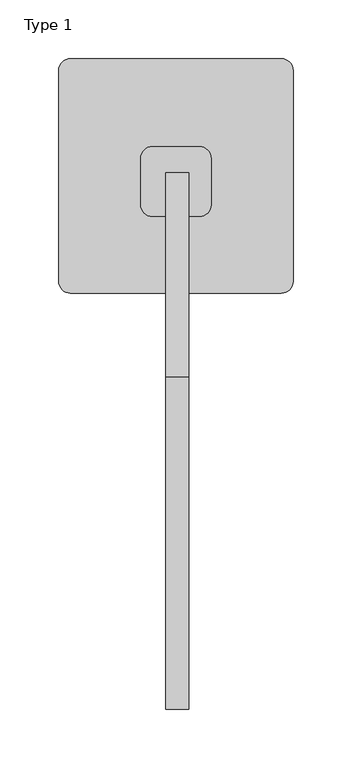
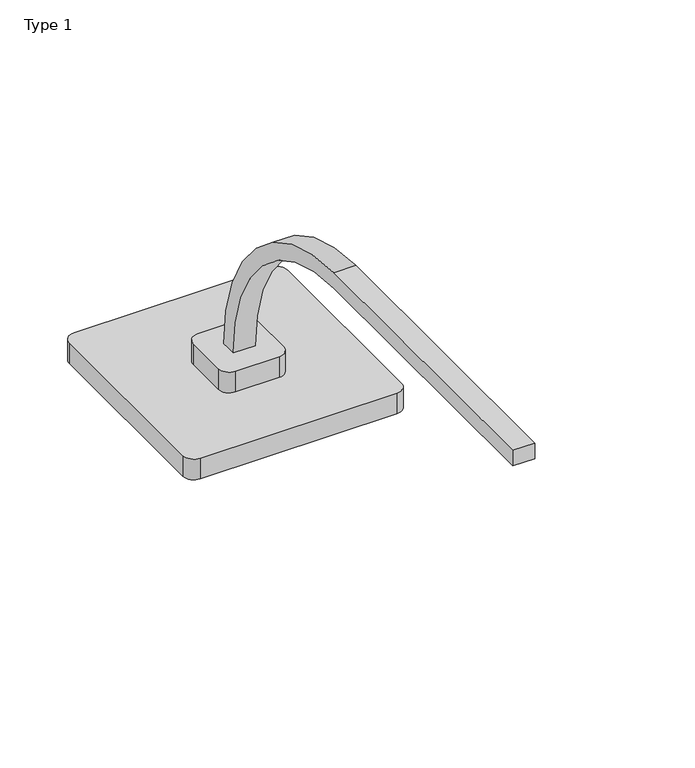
"""IFC4 building model written with IfcOpenShell, lengths in millimetres: flow terminal geometry, Chuveiro Quadrado 20mm : Type 1."""

from ifc_helpers import new_model, si_unit, point, frame, frame_2d, origin, place, context, project, spatial, polyline, circle_curve, trimmed, segment, composite_curve, outline, extrude, source, transform, mapped, element, save


def type_1_46168cfa(model_context):
    return source(origin(), model_context, "Body", "SweptSolid", [
        extrude(outline(composite_curve([segment(trimmed(circle_curve(frame_2d((208.4846115, 2040.0)), 174.5032286), [point((208.4846115, 2214.5032286))], [point((382.9878401, 2040.0))], False, "CARTESIAN"), True, "CONTINUOUS"), segment(polyline([(382.9878401, 2040.0), (367.9878401, 2040.0)]), True, "CONTINUOUS"), segment(trimmed(circle_curve(frame_2d((208.4846115, 2040.0)), 159.5032286), [point((367.9878401, 2040.0))], [point((208.4846115, 2199.5032286))], True, "CARTESIAN"), True, "CONTINUOUS"), segment(polyline([(208.4846115, 2199.5032286), (-75.0, 2199.5032286), (-75.0, 2214.5032286), (208.4846115, 2214.5032286)]), True, "CONTINUOUS")], self_intersect=False)), frame((116.1619815, 0.0, 0.0), z_axis=(1.0, 0.0, 0.0), x_axis=(0.0, 1.0, 0.0)), (0.0, 0.0, 1.0), 20.0),
        extrude(outline(composite_curve([segment(trimmed(circle_curve(frame_2d((145.0, 395.0)), 10.0), [point((145.0, 405.0))], [point((155.0, 395.0))], False, "CARTESIAN"), True, "CONTINUOUS"), segment(polyline([(155.0, 395.0), (155.0, 355.4275253)]), True, "CONTINUOUS"), segment(trimmed(circle_curve(frame_2d((145.0, 355.4275253)), 10.0), [point((155.0, 355.4275253))], [point((145.0, 345.4275253))], False, "CARTESIAN"), True, "CONTINUOUS"), segment(polyline([(145.0, 345.4275253), (105.0, 345.4275253)]), True, "CONTINUOUS"), segment(trimmed(circle_curve(frame_2d((105.0, 355.4275253)), 10.0), [point((105.0, 345.4275253))], [point((95.0, 355.4275253))], False, "CARTESIAN"), True, "CONTINUOUS"), segment(polyline([(95.0, 355.4275253), (95.0, 395.0)]), True, "CONTINUOUS"), segment(trimmed(circle_curve(frame_2d((105.0, 395.0)), 10.0), [point((95.0, 395.0))], [point((105.0, 405.0))], False, "CARTESIAN"), True, "CONTINUOUS"), segment(polyline([(105.0, 405.0), (145.0, 405.0)]), True, "CONTINUOUS")], self_intersect=False)), frame((0.0, 0.0, 2020.0), z_axis=(0.0, 0.0, 1.0), x_axis=(1.0, 0.0, 0.0)), (0.0, 0.0, 1.0), 20.0),
        extrude(outline(composite_curve([segment(trimmed(circle_curve(frame_2d((215.0, 470.0)), 10.0), [point((215.0, 480.0))], [point((225.0, 470.0))], False, "CARTESIAN"), True, "CONTINUOUS"), segment(polyline([(225.0, 470.0), (225.0, 290.0)]), True, "CONTINUOUS"), segment(trimmed(circle_curve(frame_2d((215.0, 290.0)), 10.0), [point((225.0, 290.0))], [point((215.0, 280.0))], False, "CARTESIAN"), True, "CONTINUOUS"), segment(polyline([(215.0, 280.0), (35.0, 280.0)]), True, "CONTINUOUS"), segment(trimmed(circle_curve(frame_2d((35.0, 290.0)), 10.0), [point((35.0, 280.0))], [point((25.0, 290.0))], False, "CARTESIAN"), True, "CONTINUOUS"), segment(polyline([(25.0, 290.0), (25.0, 470.0)]), True, "CONTINUOUS"), segment(trimmed(circle_curve(frame_2d((35.0, 470.0)), 10.0), [point((25.0, 470.0))], [point((35.0, 480.0))], False, "CARTESIAN"), True, "CONTINUOUS"), segment(polyline([(35.0, 480.0), (215.0, 480.0)]), True, "CONTINUOUS")], self_intersect=False)), frame((0.0, 0.0, 2000.0), z_axis=(0.0, 0.0, 1.0), x_axis=(1.0, 0.0, 0.0)), (0.0, 0.0, 1.0), 20.0),
    ])


if __name__ == "__main__":
    model = new_model("IFC4")
    model_context = context("Model", 3, world=origin())
    ifc_project = project(units=[si_unit("LENGTHUNIT", "METRE", prefix="MILLI")], contexts=[model_context])
    site = spatial("IfcSite", under=ifc_project)
    building = spatial("IfcBuilding", under=site)
    placement = place(None, origin())
    type_1_shape = type_1_46168cfa(model_context)
    element("IfcFlowTerminal", 1, ObjectType="Chuveiro Quadrado 20mm : Type 1", at=placement, inside=building, context=model_context, shape_type="MappedRepresentation", body=[
        mapped(type_1_shape, transform((0.0, 0.0, 0.0), x_axis=(1.0, 0.0, 0.0), y_axis=(0.0, 1.0, 0.0), z_axis=(0.0, 0.0, 1.0))),
    ])
    save(model, "model.ifc")
